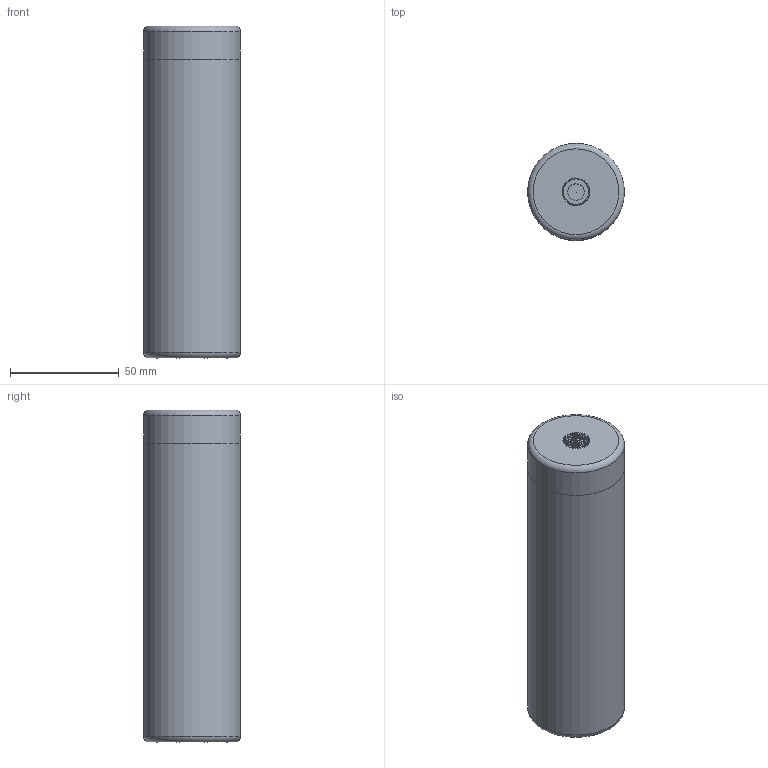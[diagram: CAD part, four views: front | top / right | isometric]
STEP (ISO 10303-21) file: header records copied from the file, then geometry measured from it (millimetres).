
FILE_DESCRIPTION(/* description */ (''),/* implementation_level */ '2;1');
FILE_NAME(/* name */ 'C:/Users/mavor/Desktop/3D Printer/Misc. Files/STL/Saturn (public)/STEP/S3-2_no_exit_hole.step',/* time_stamp */ '2021-01-21T15:44:50-05:00',/* author */ (''),/* organization */ (''),/* preprocessor_version */ 'ST-DEVELOPER v18.1',/* originating_system */ 'Autodesk Translation Framework v9.7.1.1290',/* authorisation */ '');
FILE_SCHEMA (('AUTOMOTIVE_DESIGN { 1 0 10303 214 3 1 1 }'));
Length unit declared in the file: millimetre
Products named in the file (1): 22Can 2 piece
Bounding box: 44.45 x 44.45 x 152.4 mm (x, y, z)
Volume: 177814.5 mm3; surface area: 65279.4 mm2
Topology: 2 solids, 2 shells, 252 faces, 628 edges, 393 vertices
Faces by surface type: cylinder 99, bspline 95, torus 20, cone 20, plane 18
Full cylindrical faces by diameter (mm): 7.62 x6, 11.793 x16, 12.7 x16, 17.78 x5, 20.32 x5, 25.4 x6, 31.75 x1, 35.58 x7, 35.938 x7, 37.955 x8, 38.1 x8, 44.45 x2
Entity records: 18247 total; most frequent: CARTESIAN_POINT 12697, ORIENTED_EDGE 1254, DIRECTION 1026, EDGE_CURVE 627, AXIS2_PLACEMENT_3D 440, VERTEX_POINT 393, EDGE_LOOP 284, FACE_OUTER_BOUND 252
